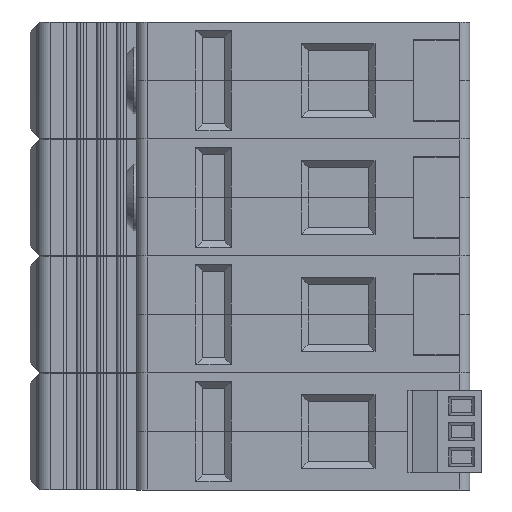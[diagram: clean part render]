
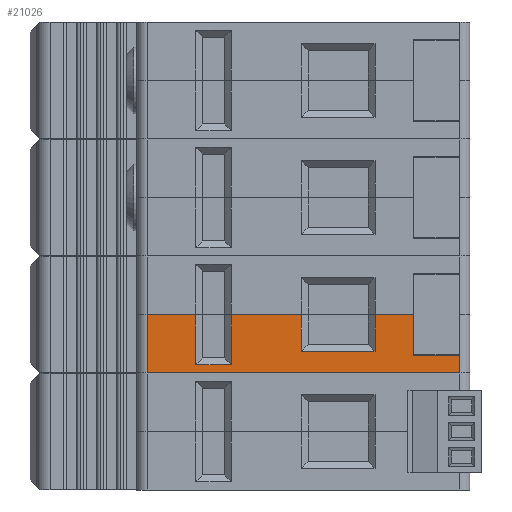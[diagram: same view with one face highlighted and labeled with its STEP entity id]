
A CAD part, left-side view. The second image highlights one B-rep face of the part: STEP entity #21026.
In plain terms, the highlighted planar face has unit normal (-1, 0, 0).
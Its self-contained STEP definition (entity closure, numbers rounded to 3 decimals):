
#1336=FACE_OUTER_BOUND('',#2488,.T.);
#2488=EDGE_LOOP('',(#14836,#14837,#14838,#14839,#14840,#14841,#14842,#14843,
#14844,#14845,#14846,#14847,#14848,#14849));
#3601=LINE('',#30187,#6091);
#3607=LINE('',#30199,#6097);
#3613=LINE('',#30211,#6103);
#3865=LINE('',#30839,#6355);
#4027=LINE('',#31257,#6517);
#4029=LINE('',#31262,#6519);
#4048=LINE('',#31299,#6538);
#4051=LINE('',#31306,#6541);
#4070=LINE('',#31343,#6560);
#4073=LINE('',#31350,#6563);
#4074=LINE('',#31352,#6564);
#4075=LINE('',#31353,#6565);
#4076=LINE('',#31354,#6566);
#4077=LINE('',#31355,#6567);
#6091=VECTOR('',#24076,10.);
#6097=VECTOR('',#24082,10.);
#6103=VECTOR('',#24088,10.);
#6355=VECTOR('',#24568,10.);
#6517=VECTOR('',#24992,10.);
#6519=VECTOR('',#24998,10.);
#6538=VECTOR('',#25033,10.);
#6541=VECTOR('',#25040,10.);
#6560=VECTOR('',#25075,10.);
#6563=VECTOR('',#25082,10.);
#6564=VECTOR('',#25083,10.);
#6565=VECTOR('',#25084,10.);
#6566=VECTOR('',#25085,10.);
#6567=VECTOR('',#25086,10.);
#8579=VERTEX_POINT('',#30184);
#8580=VERTEX_POINT('',#30186);
#8585=VERTEX_POINT('',#30196);
#8586=VERTEX_POINT('',#30198);
#8591=VERTEX_POINT('',#30208);
#8592=VERTEX_POINT('',#30210);
#8847=VERTEX_POINT('',#30836);
#8848=VERTEX_POINT('',#30838);
#8968=VERTEX_POINT('',#31261);
#8978=VERTEX_POINT('',#31297);
#8980=VERTEX_POINT('',#31305);
#8990=VERTEX_POINT('',#31341);
#8992=VERTEX_POINT('',#31349);
#8993=VERTEX_POINT('',#31351);
#10655=EDGE_CURVE('',#8580,#8579,#3601,.T.);
#10661=EDGE_CURVE('',#8586,#8585,#3607,.T.);
#10667=EDGE_CURVE('',#8592,#8591,#3613,.T.);
#10978=EDGE_CURVE('',#8848,#8847,#3865,.T.);
#11187=EDGE_CURVE('',#8848,#8579,#4027,.T.);
#11189=EDGE_CURVE('',#8580,#8968,#4029,.T.);
#11208=EDGE_CURVE('',#8978,#8585,#4048,.T.);
#11211=EDGE_CURVE('',#8586,#8980,#4051,.T.);
#11230=EDGE_CURVE('',#8990,#8591,#4070,.T.);
#11233=EDGE_CURVE('',#8992,#8847,#4073,.T.);
#11234=EDGE_CURVE('',#8992,#8993,#4074,.T.);
#11235=EDGE_CURVE('',#8993,#8592,#4075,.T.);
#11236=EDGE_CURVE('',#8980,#8990,#4076,.T.);
#11237=EDGE_CURVE('',#8968,#8978,#4077,.T.);
#14836=ORIENTED_EDGE('',*,*,#10655,.T.);
#14837=ORIENTED_EDGE('',*,*,#11187,.F.);
#14838=ORIENTED_EDGE('',*,*,#10978,.T.);
#14839=ORIENTED_EDGE('',*,*,#11233,.F.);
#14840=ORIENTED_EDGE('',*,*,#11234,.T.);
#14841=ORIENTED_EDGE('',*,*,#11235,.T.);
#14842=ORIENTED_EDGE('',*,*,#10667,.T.);
#14843=ORIENTED_EDGE('',*,*,#11230,.F.);
#14844=ORIENTED_EDGE('',*,*,#11236,.F.);
#14845=ORIENTED_EDGE('',*,*,#11211,.F.);
#14846=ORIENTED_EDGE('',*,*,#10661,.T.);
#14847=ORIENTED_EDGE('',*,*,#11208,.F.);
#14848=ORIENTED_EDGE('',*,*,#11237,.F.);
#14849=ORIENTED_EDGE('',*,*,#11189,.F.);
#20136=PLANE('',#22482);
#21026=ADVANCED_FACE('',(#1336),#20136,.T.);
#22482=AXIS2_PLACEMENT_3D('',#31348,#25080,#25081);
#24076=DIRECTION('',(0.,1.,0.));
#24082=DIRECTION('',(0.,1.,0.));
#24088=DIRECTION('',(0.,1.,0.));
#24568=DIRECTION('',(0.,-1.,0.));
#24992=DIRECTION('',(0.,0.,1.));
#24998=DIRECTION('',(0.,0.,-1.));
#25033=DIRECTION('',(0.,0.,1.));
#25040=DIRECTION('',(0.,0.,-1.));
#25075=DIRECTION('',(0.,0.,1.));
#25080=DIRECTION('center_axis',(-1.,0.,0.));
#25081=DIRECTION('ref_axis',(0.,-1.,0.));
#25082=DIRECTION('',(0.,0.,-1.));
#25083=DIRECTION('',(0.,1.,0.));
#25084=DIRECTION('',(0.,0.,1.));
#25085=DIRECTION('',(0.,-1.,0.));
#25086=DIRECTION('',(0.,-1.,0.));
#30184=CARTESIAN_POINT('',(-45.,12.5,8.7));
#30186=CARTESIAN_POINT('',(-45.,5.2,8.7));
#30187=CARTESIAN_POINT('',(-45.,4.197,8.7));
#30196=CARTESIAN_POINT('',(-45.,-0.1,8.7));
#30198=CARTESIAN_POINT('',(-45.,-10.6,8.7));
#30199=CARTESIAN_POINT('',(-45.,4.197,8.7));
#30208=CARTESIAN_POINT('',(-45.,-21.6,8.7));
#30210=CARTESIAN_POINT('',(-45.,-27.3,8.7));
#30211=CARTESIAN_POINT('',(-45.,4.197,8.7));
#30836=CARTESIAN_POINT('',(-45.,-34.3,0.));
#30838=CARTESIAN_POINT('',(-45.,12.5,0.));
#30839=CARTESIAN_POINT('',(-45.,14.,0.));
#31257=CARTESIAN_POINT('',(-45.,12.5,0.));
#31261=CARTESIAN_POINT('',(-45.,5.2,1.25));
#31262=CARTESIAN_POINT('',(-45.,5.2,1.125));
#31297=CARTESIAN_POINT('',(-45.,-0.1,1.25));
#31299=CARTESIAN_POINT('',(-45.,-0.1,7.625));
#31305=CARTESIAN_POINT('',(-45.,-10.6,3.25));
#31306=CARTESIAN_POINT('',(-45.,-10.6,2.125));
#31341=CARTESIAN_POINT('',(-45.,-21.6,3.25));
#31343=CARTESIAN_POINT('',(-45.,-21.6,6.625));
#31348=CARTESIAN_POINT('Origin',(-45.,14.,0.));
#31349=CARTESIAN_POINT('',(-45.,-34.3,2.64));
#31350=CARTESIAN_POINT('',(-45.,-34.3,0.));
#31351=CARTESIAN_POINT('',(-45.,-27.3,2.64));
#31352=CARTESIAN_POINT('',(-45.,-10.15,2.64));
#31353=CARTESIAN_POINT('',(-45.,-27.3,1.32));
#31354=CARTESIAN_POINT('',(-45.,-3.3,3.25));
#31355=CARTESIAN_POINT('',(-45.,7.45,1.25));
